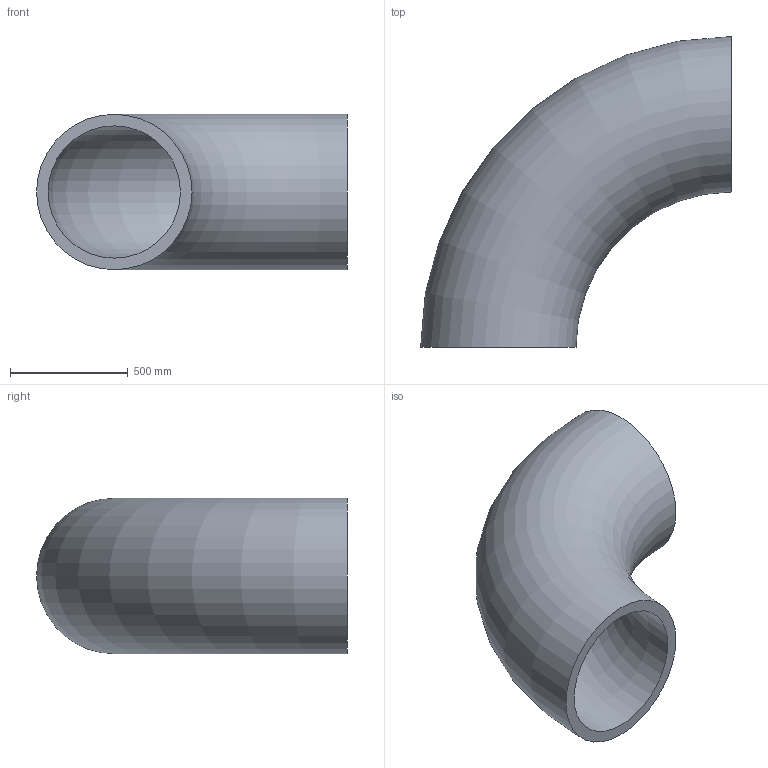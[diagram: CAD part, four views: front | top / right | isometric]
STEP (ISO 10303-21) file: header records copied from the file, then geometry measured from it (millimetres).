
FILE_DESCRIPTION(/* description */ (''),/* implementation_level */ '2;1');
FILE_NAME(/* name */ 'C:\Users\D\Documents\Inventor\HP\JIS\配管\エルボ ロング 90°\Sch120\Elbow-long-90-650A-Sch120.stp',/* time_stamp */ '2022-06-09T18:40:59+09:00',/* author */ ('D'),/* organization */ (''),/* preprocessor_version */ 'ST-DEVELOPER v18',/* originating_system */ 'Autodesk Inventor 2020',/* authorisation */ '');
FILE_SCHEMA (('AUTOMOTIVE_DESIGN { 1 0 10303 214 3 1 1 }'));
Length unit declared in the file: millimetre
Products named in the file (1): Elbow-long-90-15A-SGP
Bounding box: 1320.8 x 1320.8 x 660.4 mm (x, y, z)
Volume: 146724947 mm3; surface area: 6165165 mm2
Topology: 1 solids, 1 shells, 4 faces, 10 edges, 8 vertices
Faces by surface type: torus 2, plane 2
Entity records: 181 total; most frequent: DIRECTION 30, CARTESIAN_POINT 23, ORIENTED_EDGE 20, AXIS2_PLACEMENT_3D 15, CIRCLE 10, EDGE_CURVE 10, VERTEX_POINT 8, EDGE_LOOP 6
